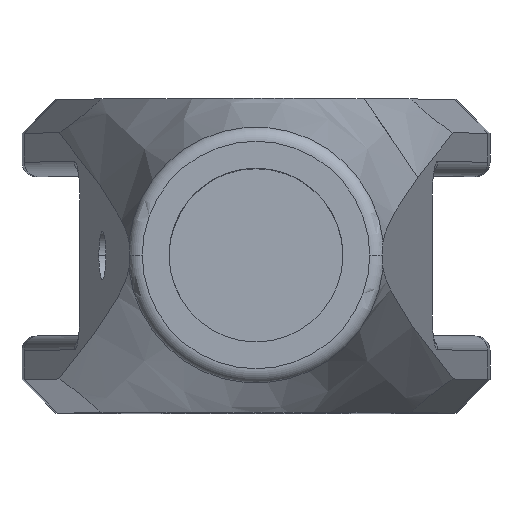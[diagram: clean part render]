
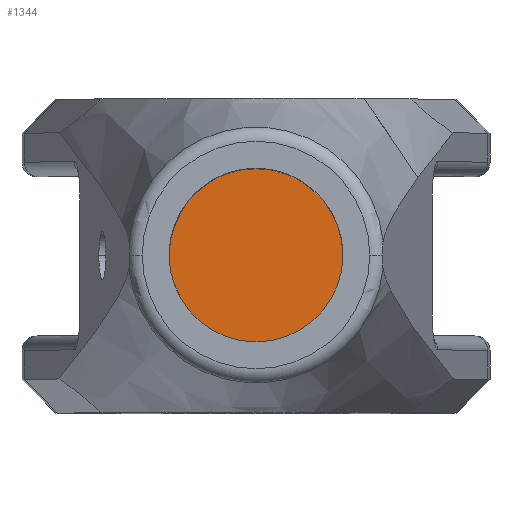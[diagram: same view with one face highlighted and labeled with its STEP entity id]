
A CAD part, top view. The second image highlights one B-rep face of the part: STEP entity #1344.
In plain terms, the highlighted planar face has unit normal (0, 0, 1).
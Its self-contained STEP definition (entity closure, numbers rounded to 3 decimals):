
#5 = CIRCLE ( 'NONE', #384, 18. ) ;
#6 = CIRCLE ( 'NONE', #750, 18. ) ;
#56 = PLANE ( 'NONE',  #1050 ) ;
#65 = CARTESIAN_POINT ( 'NONE',  ( 44., 0., -72. ) ) ;
#84 = ORIENTED_EDGE ( 'NONE', *, *, #1333, .T. ) ;
#187 = VERTEX_POINT ( 'NONE', #65 ) ;
#357 = VERTEX_POINT ( 'NONE', #1136 ) ;
#360 = DIRECTION ( 'NONE',  ( 0., 0., 1. ) ) ;
#384 = AXIS2_PLACEMENT_3D ( 'NONE', #1637, #743, #1784 ) ;
#668 = DIRECTION ( 'NONE',  ( 1., 0., 0. ) ) ;
#743 = DIRECTION ( 'NONE',  ( 0., 0., 1. ) ) ;
#750 = AXIS2_PLACEMENT_3D ( 'NONE', #1251, #360, #1402 ) ;
#760 = FACE_OUTER_BOUND ( 'NONE', #1467, .T. ) ;
#1004 = ORIENTED_EDGE ( 'NONE', *, *, #1825, .T. ) ;
#1050 = AXIS2_PLACEMENT_3D ( 'NONE', #1110, #1550, #668 ) ;
#1110 = CARTESIAN_POINT ( 'NONE',  ( 26., 0., -72. ) ) ;
#1136 = CARTESIAN_POINT ( 'NONE',  ( 8., 0., -72. ) ) ;
#1251 = CARTESIAN_POINT ( 'NONE',  ( 26., 0., -72. ) ) ;
#1333 = EDGE_CURVE ( 'NONE', #357, #187, #6, .T. ) ;
#1344 = ADVANCED_FACE ( 'NONE', ( #760 ), #56, .T. ) ;
#1402 = DIRECTION ( 'NONE',  ( 1., 0., 0. ) ) ;
#1467 = EDGE_LOOP ( 'NONE', ( #1004, #84 ) ) ;
#1550 = DIRECTION ( 'NONE',  ( 0., 0., 1. ) ) ;
#1637 = CARTESIAN_POINT ( 'NONE',  ( 26., 0., -72. ) ) ;
#1784 = DIRECTION ( 'NONE',  ( 1., 0., 0. ) ) ;
#1825 = EDGE_CURVE ( 'NONE', #187, #357, #5, .T. ) ;
